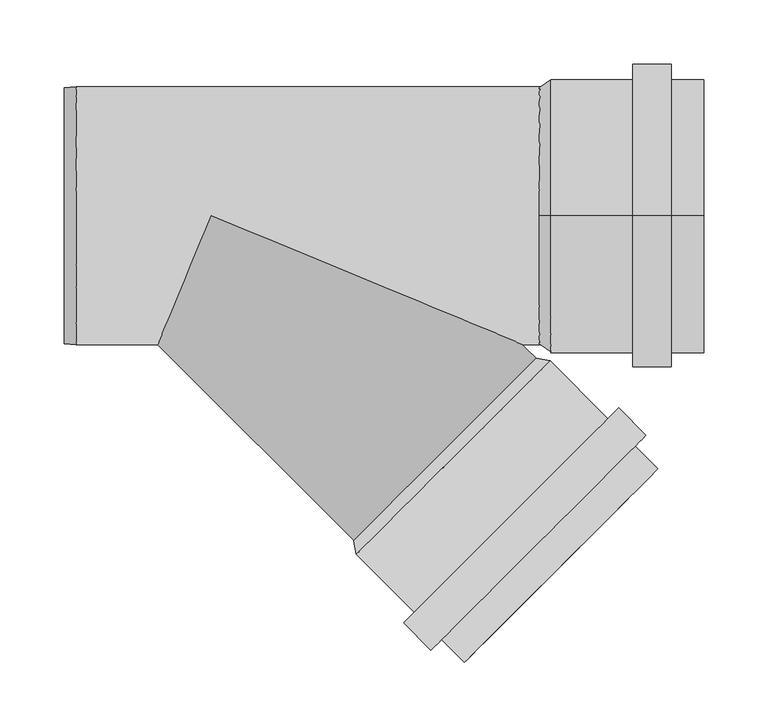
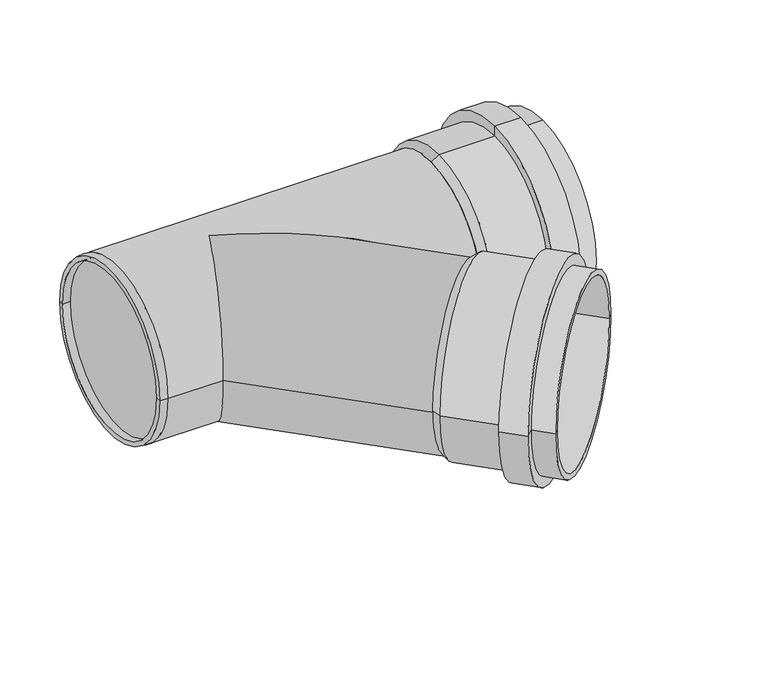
"""IFC4 building model written with IfcOpenShell, lengths in millimetres: pipe fitting geometry, OSMA_KG2000_PPKGEA : Odbočka 45°."""

from ifc_helpers import new_model, si_unit, frame, origin, place, context, project, spatial, polyline, circle_curve, ellipse_curve, source, transform, mapped, element, save
from ifc_brep_helpers import plane_surface, cylinder_surface, revolved_surface, advanced_brep


def pipe_fitting_674a1a07(model_context):
    return source(origin(), model_context, "Body", "AdvancedBrep", [
        advanced_brep(
        [(258.4475285, -117.0261723, 1.6299565), (117.0261723, -258.4475285, 1.6299565), (200.8183259, -342.2396821, 1.6299565), (342.2396821, -200.8183259, 1.6299565), (307.7328712, -157.5433908, 1.6299565), (157.5433908, -307.7328712, 1.6299565), (112.6421102, -262.8315906, 1.6299565), (262.8315906, -112.6421102, 1.6299565), (316.0767312, -149.1995308, 1.6299565), (149.1995308, -316.0767312, 1.6299565), (337.2899346, -170.4127343, 1.6299565), (170.4127343, -337.2899346, 1.6299565), (328.9460746, -178.7565943, 1.6299565), (178.7565943, -328.9460746, 1.6299565), (346.6237441, -196.4342638, 1.6299565), (196.4342638, -346.6237441, 1.6299565), (247.6995054, -115.0462733, 1.6299565), (115.0462733, -247.6995054, 1.6299565), (252.0835675, -110.6622113, 1.6299565), (110.6622113, -252.0835675, 1.6299565)],
        [
            (0, 1, circle_curve(frame((187.7368504, -187.7368504, 1.6299565), z_axis=(-0.707106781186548, 0.707106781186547, 0.0), x_axis=(-0.707106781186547, -0.707106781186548, 0.0)), 100.0)),
            (1, 2),
            (2, 3, circle_curve(frame((271.529004, -271.529004, 1.6299565), z_axis=(0.707106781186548, -0.707106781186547, 0.0), x_axis=(-0.707106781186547, -0.707106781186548, 0.0)), 100.0)),
            (3, 0),
            (1, 0, circle_curve(frame((187.7368504, -187.7368504, 1.6299565), z_axis=(-0.707106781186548, 0.707106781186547, 0.0), x_axis=(-0.707106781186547, -0.707106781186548, 0.0)), 100.0)),
            (3, 2, circle_curve(frame((271.529004, -271.529004, 1.6299565), z_axis=(0.707106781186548, -0.707106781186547, 0.0), x_axis=(-0.707106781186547, -0.707106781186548, 0.0)), 100.0)),
            (4, 5, circle_curve(frame((232.638131, -232.638131, 1.6299565), z_axis=(-0.707106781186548, 0.707106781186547, 0.0), x_axis=(-0.707106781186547, -0.707106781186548, 0.0)), 106.2)),
            (5, 6),
            (6, 7, circle_curve(frame((187.7368504, -187.7368504, 1.6299565), z_axis=(0.707106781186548, -0.707106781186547, 0.0), x_axis=(-0.707106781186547, -0.707106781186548, 0.0)), 106.2)),
            (7, 4),
            (5, 4, circle_curve(frame((232.638131, -232.638131, 1.6299565), z_axis=(-0.707106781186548, 0.707106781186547, 0.0), x_axis=(-0.707106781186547, -0.707106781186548, 0.0)), 106.2)),
            (7, 6, circle_curve(frame((187.7368504, -187.7368504, 1.6299565), z_axis=(0.707106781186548, -0.707106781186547, 0.0), x_axis=(-0.707106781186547, -0.707106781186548, 0.0)), 106.2)),
            (8, 9, circle_curve(frame((232.638131, -232.638131, 1.6299565), z_axis=(-0.707106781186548, 0.707106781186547, 0.0), x_axis=(-0.707106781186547, -0.707106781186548, 0.0)), 118.0)),
            (9, 5),
            (4, 8),
            (9, 8, circle_curve(frame((232.638131, -232.638131, 1.6299565), z_axis=(-0.707106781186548, 0.707106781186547, 0.0), x_axis=(-0.707106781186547, -0.707106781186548, 0.0)), 118.0)),
            (10, 11, circle_curve(frame((253.8513344, -253.8513344, 1.6299565), z_axis=(-0.707106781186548, 0.707106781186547, 0.0), x_axis=(-0.707106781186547, -0.707106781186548, 0.0)), 118.0)),
            (11, 9),
            (8, 10),
            (11, 10, circle_curve(frame((253.8513344, -253.8513344, 1.6299565), z_axis=(-0.707106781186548, 0.707106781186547, 0.0), x_axis=(-0.707106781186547, -0.707106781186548, 0.0)), 118.0)),
            (12, 13, circle_curve(frame((253.8513344, -253.8513344, 1.6299565), z_axis=(-0.707106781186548, 0.707106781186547, 0.0), x_axis=(-0.707106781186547, -0.707106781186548, 0.0)), 106.2)),
            (13, 11),
            (10, 12),
            (13, 12, circle_curve(frame((253.8513344, -253.8513344, 1.6299565), z_axis=(-0.707106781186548, 0.707106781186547, 0.0), x_axis=(-0.707106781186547, -0.707106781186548, 0.0)), 106.2)),
            (14, 15, circle_curve(frame((271.529004, -271.529004, 1.6299565), z_axis=(-0.707106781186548, 0.707106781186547, 0.0), x_axis=(-0.707106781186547, -0.707106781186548, 0.0)), 106.2)),
            (15, 13),
            (12, 14),
            (15, 14, circle_curve(frame((271.529004, -271.529004, 1.6299565), z_axis=(-0.707106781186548, 0.707106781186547, 0.0), x_axis=(-0.707106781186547, -0.707106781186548, 0.0)), 106.2)),
            (2, 15),
            (14, 3),
            (16, 17, circle_curve(frame((181.3728894, -181.3728894, 1.6299565), z_axis=(-0.707106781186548, 0.707106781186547, 0.0), x_axis=(-0.707106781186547, -0.707106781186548, 0.0)), 93.8)),
            (17, 1),
            (0, 16),
            (17, 16, circle_curve(frame((181.3728894, -181.3728894, 1.6299565), z_axis=(-0.707106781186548, 0.707106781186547, 0.0), x_axis=(-0.707106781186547, -0.707106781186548, 0.0)), 93.8)),
            (18, 19, circle_curve(frame((181.3728894, -181.3728894, 1.6299565), z_axis=(-0.707106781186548, 0.707106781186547, 0.0), x_axis=(-0.707106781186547, -0.707106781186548, 0.0)), 100.0)),
            (19, 17),
            (16, 18),
            (19, 18, circle_curve(frame((181.3728894, -181.3728894, 1.6299565), z_axis=(-0.707106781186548, 0.707106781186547, 0.0), x_axis=(-0.707106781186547, -0.707106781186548, 0.0)), 100.0)),
            (6, 19),
            (18, 7),
        ],
        [
            revolved_surface(polyline([(200.81832588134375, -342.2396821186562, 1.6299565), (117.02617228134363, -258.4475285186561, 1.6299565)]), (2159.132327, -2159.132327, 1.6299565), (0.707106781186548, -0.707106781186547, 0.0)),
            cylinder_surface(frame((2159.132327, -2159.132327, 1.6299565), z_axis=(0.707106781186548, -0.707106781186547, 0.0), x_axis=(-0.707106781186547, -0.707106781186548, 0.0)), 106.2),
            plane_surface(frame((232.638131, -232.638131, 1.6299565), z_axis=(-0.707106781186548, 0.707106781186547, 0.0), x_axis=(-0.707106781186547, -0.707106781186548, 0.0))),
            cylinder_surface(frame((2159.132327, -2159.132327, 1.6299565), z_axis=(0.707106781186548, -0.707106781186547, 0.0), x_axis=(-0.707106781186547, -0.707106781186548, 0.0)), 118.0),
            plane_surface(frame((253.8513344, -253.8513344, 1.6299565), z_axis=(0.707106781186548, -0.707106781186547, 0.0), x_axis=(-0.707106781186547, -0.707106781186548, 0.0))),
            plane_surface(frame((271.529004, -271.529004, 1.6299565), z_axis=(0.707106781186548, -0.707106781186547, 0.0), x_axis=(-0.707106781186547, -0.707106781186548, 0.0))),
            revolved_surface(polyline([(117.0261723, -258.4475285, 1.6299565), (115.0462733, -247.6995054, 1.6299565)]), (2159.132327, -2159.132327, 1.6299565), (0.707106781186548, -0.707106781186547, 0.0)),
            plane_surface(frame((181.3728894, -181.3728894, 1.6299565), z_axis=(-0.707106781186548, 0.707106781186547, 0.0), x_axis=(-0.707106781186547, -0.707106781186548, 0.0))),
            revolved_surface(polyline([(110.6622113, -252.0835675, 1.6299565), (112.6421102, -262.8315906, 1.6299565)]), (2159.132327, -2159.132327, 1.6299565), (0.707106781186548, -0.707106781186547, 0.0)),
        ],
        [
            (0, [[1, 2, 3, 4]]),
            (0, [[5, -4, 6, -2]]),
            (1, [[7, 8, 9, 10]]),
            (1, [[11, -10, 12, -8]]),
            (2, [[13, 14, -7, 15]]),
            (2, [[16, -15, -11, -14]]),
            (3, [[17, 18, -13, 19]]),
            (3, [[20, -19, -16, -18]]),
            (4, [[21, 22, -17, 23]]),
            (4, [[24, -23, -20, -22]]),
            (1, [[25, 26, -21, 27]]),
            (1, [[28, -27, -24, -26]]),
            (5, [[-3, 29, -25, 30]]),
            (5, [[-6, -30, -28, -29]]),
            (6, [[31, 32, -1, 33]]),
            (6, [[34, -33, -5, -32]]),
            (7, [[35, 36, -31, 37]]),
            (7, [[38, -37, -34, -36]]),
            (8, [[-9, 39, -35, 40]]),
            (8, [[-12, -40, -38, -39]]),
        ],
    ),
        advanced_brep(
        [(263.5, 0.0, -100.0), (263.5, 0.0, 100.0), (382.0, 0.0, 100.0), (382.0, 0.0, -100.0), (327.0, 0.0, -106.2), (327.0, 0.0, 106.2), (263.5, 0.0, 106.2), (263.5, 0.0, -106.2), (327.0, 0.0, -118.0), (327.0, 0.0, 118.0), (357.0, 0.0, -118.0), (357.0, 0.0, 118.0), (357.0, 0.0, -106.2), (357.0, 0.0, 106.2), (382.0, 0.0, -106.2), (382.0, 0.0, 106.2), (254.5, 0.0, -93.8), (254.5, 0.0, 93.8), (254.5, 0.0, -100.0), (254.5, 0.0, 100.0)],
        [
            (0, 1, circle_curve(frame((263.5, 0.0, 0.0), z_axis=(-1.0, 0.0, 0.0), x_axis=(0.0, 0.0, 1.0)), 100.0)),
            (1, 2),
            (2, 3, circle_curve(frame((382.0, 0.0, 0.0), z_axis=(1.0, 0.0, 0.0), x_axis=(0.0, 0.0, 1.0)), 100.0)),
            (3, 0),
            (1, 0, circle_curve(frame((263.5, 0.0, 0.0), z_axis=(-1.0, 0.0, 0.0), x_axis=(0.0, 0.0, 1.0)), 100.0)),
            (3, 2, circle_curve(frame((382.0, 0.0, 0.0), z_axis=(1.0, 0.0, 0.0), x_axis=(0.0, 0.0, 1.0)), 100.0)),
            (4, 5, circle_curve(frame((327.0, 0.0, 0.0), z_axis=(-1.0, 0.0, 0.0), x_axis=(0.0, 0.0, 1.0)), 106.2)),
            (5, 6),
            (6, 7, circle_curve(frame((263.5, 0.0, 0.0), z_axis=(1.0, 0.0, 0.0), x_axis=(0.0, 0.0, 1.0)), 106.2)),
            (7, 4),
            (5, 4, circle_curve(frame((327.0, 0.0, 0.0), z_axis=(-1.0, 0.0, 0.0), x_axis=(0.0, 0.0, 1.0)), 106.2)),
            (7, 6, circle_curve(frame((263.5, 0.0, 0.0), z_axis=(1.0, 0.0, 0.0), x_axis=(0.0, 0.0, 1.0)), 106.2)),
            (8, 9, circle_curve(frame((327.0, 0.0, 0.0), z_axis=(-1.0, 0.0, 0.0), x_axis=(0.0, 0.0, 1.0)), 118.0)),
            (9, 5),
            (4, 8),
            (9, 8, circle_curve(frame((327.0, 0.0, 0.0), z_axis=(-1.0, 0.0, 0.0), x_axis=(0.0, 0.0, 1.0)), 118.0)),
            (10, 11, circle_curve(frame((357.0, 0.0, 0.0), z_axis=(-1.0, 0.0, 0.0), x_axis=(0.0, 0.0, 1.0)), 118.0)),
            (11, 9),
            (8, 10),
            (11, 10, circle_curve(frame((357.0, 0.0, 0.0), z_axis=(-1.0, 0.0, 0.0), x_axis=(0.0, 0.0, 1.0)), 118.0)),
            (12, 13, circle_curve(frame((357.0, 0.0, 0.0), z_axis=(-1.0, 0.0, 0.0), x_axis=(0.0, 0.0, 1.0)), 106.2)),
            (13, 11),
            (10, 12),
            (13, 12, circle_curve(frame((357.0, 0.0, 0.0), z_axis=(-1.0, 0.0, 0.0), x_axis=(0.0, 0.0, 1.0)), 106.2)),
            (14, 15, circle_curve(frame((382.0, 0.0, 0.0), z_axis=(-1.0, 0.0, 0.0), x_axis=(0.0, 0.0, 1.0)), 106.2)),
            (15, 13),
            (12, 14),
            (15, 14, circle_curve(frame((382.0, 0.0, 0.0), z_axis=(-1.0, 0.0, 0.0), x_axis=(0.0, 0.0, 1.0)), 106.2)),
            (2, 15),
            (14, 3),
            (16, 17, circle_curve(frame((254.5, 0.0, 0.0), z_axis=(-1.0, 0.0, 0.0), x_axis=(0.0, 0.0, 1.0)), 93.8)),
            (17, 1),
            (0, 16),
            (17, 16, circle_curve(frame((254.5, 0.0, 0.0), z_axis=(-1.0, 0.0, 0.0), x_axis=(0.0, 0.0, 1.0)), 93.8)),
            (18, 19, circle_curve(frame((254.5, 0.0, 0.0), z_axis=(-1.0, 0.0, 0.0), x_axis=(0.0, 0.0, 1.0)), 100.0)),
            (19, 17),
            (16, 18),
            (19, 18, circle_curve(frame((254.5, 0.0, 0.0), z_axis=(-1.0, 0.0, 0.0), x_axis=(0.0, 0.0, 1.0)), 100.0)),
            (6, 19),
            (18, 7),
        ],
        [
            revolved_surface(polyline([(382.0, 0.0, 100.0), (263.5, 0.0, 100.0)]), (3051.4742198, 0.0, 0.0), (1.0, 0.0, 0.0)),
            cylinder_surface(frame((3051.4742198, 0.0, 0.0), z_axis=(1.0, 0.0, 0.0), x_axis=(0.0, 0.0, 1.0)), 106.2),
            plane_surface(frame((327.0, 0.0, 0.0), z_axis=(-1.0, 0.0, 0.0), x_axis=(0.0, 0.0, 1.0))),
            cylinder_surface(frame((3051.4742198, 0.0, 0.0), z_axis=(1.0, 0.0, 0.0), x_axis=(0.0, 0.0, 1.0)), 118.0),
            plane_surface(frame((357.0, 0.0, 0.0), z_axis=(1.0, 0.0, 0.0), x_axis=(0.0, 0.0, 1.0))),
            plane_surface(frame((382.0, 0.0, 0.0), z_axis=(1.0, 0.0, 0.0), x_axis=(0.0, 0.0, 1.0))),
            revolved_surface(polyline([(263.5, 0.0, 100.0), (254.5, 0.0, 93.8)]), (3051.4742198, 0.0, 0.0), (1.0, 0.0, 0.0)),
            plane_surface(frame((254.5, 0.0, 0.0), z_axis=(-1.0, 0.0, 0.0), x_axis=(0.0, 0.0, 1.0))),
            revolved_surface(polyline([(254.5, 0.0, 100.0), (263.5, 0.0, 106.2)]), (3051.4742198, 0.0, 0.0), (1.0, 0.0, 0.0)),
        ],
        [
            (0, [[1, 2, 3, 4]]),
            (0, [[5, -4, 6, -2]]),
            (1, [[7, 8, 9, 10]]),
            (1, [[11, -10, 12, -8]]),
            (2, [[13, 14, -7, 15]]),
            (2, [[16, -15, -11, -14]]),
            (3, [[17, 18, -13, 19]]),
            (3, [[20, -19, -16, -18]]),
            (4, [[21, 22, -17, 23]]),
            (4, [[24, -23, -20, -22]]),
            (1, [[25, 26, -21, 27]]),
            (1, [[28, -27, -24, -26]]),
            (5, [[-3, 29, -25, 30]]),
            (5, [[-6, -30, -28, -29]]),
            (6, [[31, 32, -1, 33]]),
            (6, [[34, -33, -5, -32]]),
            (7, [[35, 36, -31, 37]]),
            (7, [[38, -37, -34, -36]]),
            (8, [[-9, 39, -35, 40]]),
            (8, [[-12, -40, -38, -39]]),
        ],
    ),
        advanced_brep(
        [(113.8441918, -255.265548, 0.0), (255.265548, -113.8441918, 0.0), (241.4213562, -100.0, 0.0), (0.0, 0.0, 100.0), (-41.4213562, -100.0, 0.0), (0.0, 0.0, -100.0), (-114.0, -93.8, 0.0), (-114.0, 93.8, 0.0), (-114.0, 99.209508, 0.0), (-114.0, -99.209508, 0.0), (-105.0, -93.8, 0.0), (-105.0, 93.8, 0.0), (-105.0, 100.0, 0.0), (-105.0, -100.0, 0.0), (259.0, 100.0, 0.0), (259.0, -100.0, 0.0)],
        [
            (0, 1, circle_curve(frame((184.5548699, -184.5548699, 0.0), z_axis=(0.7071067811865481, -0.7071067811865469, 0.0), x_axis=(0.7071067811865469, 0.7071067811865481, 0.0)), 100.0)),
            (1, 0, circle_curve(frame((184.5548699, -184.5548699, 0.0), z_axis=(0.7071067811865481, -0.7071067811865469, 0.0), x_axis=(0.7071067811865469, 0.7071067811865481, 0.0)), 100.0)),
            (1, 2),
            (2, 3, ellipse_curve(frame((0.0, 0.0, 0.0), z_axis=(-0.3826834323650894, -0.923879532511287, 0.0), x_axis=(-0.923879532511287, 0.38268343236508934, 0.0)), 261.312593, 100.0)),
            (3, 4, ellipse_curve(frame((0.0, 0.0, 0.0), z_axis=(0.923879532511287, -0.3826834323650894, 0.0), x_axis=(0.38268343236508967, 0.9238795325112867, 0.0)), 108.23922, 100.0)),
            (4, 0),
            (4, 5, ellipse_curve(frame((0.0, 0.0, 0.0), z_axis=(0.923879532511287, -0.3826834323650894, 0.0), x_axis=(0.38268343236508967, 0.9238795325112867, 0.0)), 108.23922, 100.0)),
            (5, 2, ellipse_curve(frame((0.0, 0.0, 0.0), z_axis=(-0.3826834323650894, -0.923879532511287, 0.0), x_axis=(-0.923879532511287, 0.38268343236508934, 0.0)), 261.312593, 100.0)),
            (6, 7, circle_curve(frame((-114.0, 0.0, 0.0), z_axis=(1.0, 0.0, 0.0), x_axis=(0.0, 1.0, 0.0)), 93.8)),
            (7, 8),
            (8, 9, circle_curve(frame((-114.0, 0.0, 0.0), z_axis=(-1.0, 0.0, 0.0), x_axis=(0.0, 1.0, 0.0)), 99.209508)),
            (9, 6),
            (7, 6, circle_curve(frame((-114.0, 0.0, 0.0), z_axis=(1.0, 0.0, 0.0), x_axis=(0.0, 1.0, 0.0)), 93.8)),
            (9, 8, circle_curve(frame((-114.0, 0.0, 0.0), z_axis=(-1.0, 0.0, 0.0), x_axis=(0.0, 1.0, 0.0)), 99.209508)),
            (6, 10),
            (10, 11, circle_curve(frame((-105.0, 0.0, 0.0), z_axis=(1.0, 0.0, 0.0), x_axis=(0.0, 1.0, 0.0)), 93.8)),
            (11, 7),
            (11, 10, circle_curve(frame((-105.0, 0.0, 0.0), z_axis=(1.0, 0.0, 0.0), x_axis=(0.0, 1.0, 0.0)), 93.8)),
            (8, 12),
            (12, 13, circle_curve(frame((-105.0, 0.0, 0.0), z_axis=(-1.0, 0.0, 0.0), x_axis=(0.0, 1.0, 0.0)), 100.0)),
            (13, 9),
            (13, 12, circle_curve(frame((-105.0, 0.0, 0.0), z_axis=(-1.0, 0.0, 0.0), x_axis=(0.0, 1.0, 0.0)), 100.0)),
            (14, 15, circle_curve(frame((259.0, 0.0, 0.0), z_axis=(1.0, 0.0, 0.0), x_axis=(0.0, -1.0, 0.0)), 100.0)),
            (15, 14, circle_curve(frame((259.0, 0.0, 0.0), z_axis=(1.0, 0.0, 0.0), x_axis=(0.0, -1.0, 0.0)), 100.0)),
            (14, 12),
            (13, 4),
            (2, 15),
        ],
        [
            plane_surface(frame((184.5548699, -184.5548699, 0.0), z_axis=(0.7071067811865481, -0.7071067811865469, 0.0), x_axis=(0.0, 0.0, 1.0))),
            cylinder_surface(frame((0.0, 0.0, 0.0), z_axis=(-0.7071067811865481, 0.7071067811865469, 0.0), x_axis=(0.7071067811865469, 0.7071067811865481, 0.0)), 100.0),
            plane_surface(frame((-114.0, 0.0, 0.0), z_axis=(-1.0, 0.0, 0.0), x_axis=(0.0, 1.0, 0.0))),
            revolved_surface(polyline([(-114.0, 93.8, 0.0), (-105.0, 93.8, 0.0)]), (2168.0, 0.0, 0.0), (-1.0, 0.0, 0.0)),
            revolved_surface(polyline([(-105.0, 100.0, 0.0), (-114.0, 99.209508, 0.0)]), (2168.0, 0.0, 0.0), (-1.0, 0.0, 0.0)),
            plane_surface(frame((259.0, 0.0, 0.0), z_axis=(1.0, 0.0, 0.0), x_axis=(0.0, 0.0, 1.0))),
            plane_surface(frame((-105.0, 0.0, 0.0), z_axis=(-1.0, 0.0, 0.0), x_axis=(0.0, 0.0, 1.0))),
            cylinder_surface(frame((259.0, 0.0, 0.0), z_axis=(1.0, 0.0, 0.0), x_axis=(0.0, -1.0, 0.0)), 100.0),
        ],
        [
            (0, [[1, 2]]),
            (1, [[-2, 3, 4, 5, 6]]),
            (1, [[-1, -6, 7, 8, -3]]),
            (2, [[9, 10, 11, 12]]),
            (2, [[-10, 13, -12, 14]]),
            (3, [[-9, 15, 16, 17]]),
            (3, [[-13, -17, 18, -15]]),
            (4, [[-11, 19, 20, 21]]),
            (4, [[-14, -21, 22, -19]]),
            (5, [[23, 24]]),
            (6, [[-16, -18]]),
            (7, [[-23, 25, -22, 26, -5, -4, 27]]),
            (7, [[-24, -27, -8, -7, -26, -20, -25]]),
        ],
    ),
    ])


if __name__ == "__main__":
    model = new_model("IFC4")
    model_context = context("Model", 3, world=origin())
    ifc_project = project(units=[si_unit("LENGTHUNIT", "METRE", prefix="MILLI")], contexts=[model_context])
    site = spatial("IfcSite", under=ifc_project)
    building = spatial("IfcBuilding", under=site)
    placement = place(None, origin())
    pipe_fitting_shape = pipe_fitting_674a1a07(model_context)
    element("IfcPipeFitting", 1, ObjectType="OSMA_KG2000_PPKGEA : Odbočka 45°", at=placement, inside=building, context=model_context, shape_type="MappedRepresentation", body=[
        mapped(pipe_fitting_shape, transform((0.0, 0.0, 0.0), x_axis=(1.0, 0.0, 0.0), y_axis=(0.0, 1.0, 0.0), z_axis=(0.0, 0.0, 1.0))),
    ])
    save(model, "model.ifc")
